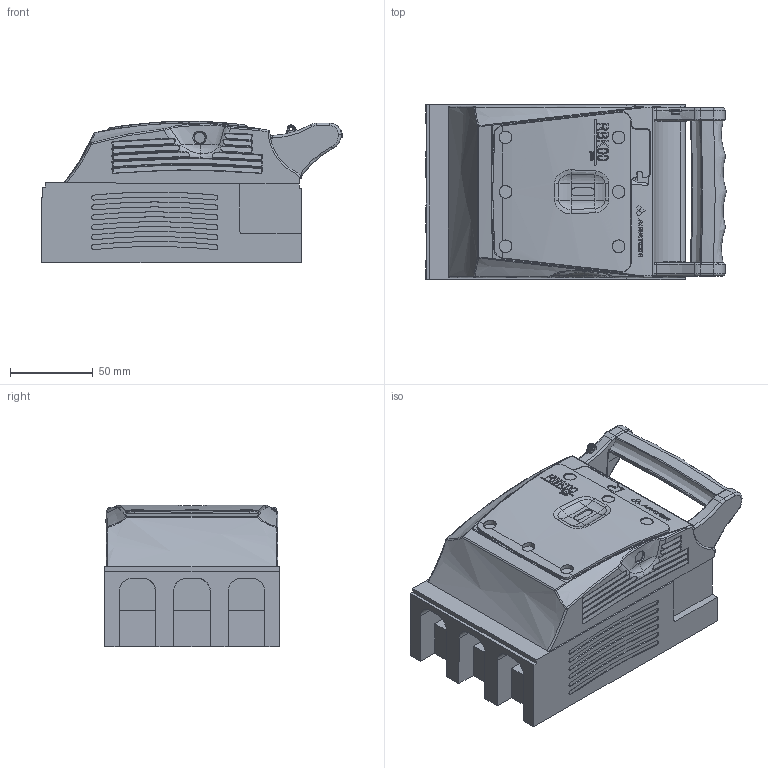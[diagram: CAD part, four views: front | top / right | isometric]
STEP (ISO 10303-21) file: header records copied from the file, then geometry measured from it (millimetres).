
FILE_DESCRIPTION(/* description */ (''),/* implementation_level */ '2;1');
FILE_NAME(/* name */ 'RBK 00 pro - 63-823256-111.stp',/* time_stamp */ '2019-02-21T08:36:30+01:00',/* author */ (''),/* organization */ (''),/* preprocessor_version */ 'ST-DEVELOPER v16',/* originating_system */ 'SIEMENS PLM Software NX 10.0',/* authorisation */ '');
FILE_SCHEMA (('AUTOMOTIVE_DESIGN { 1 0 10303 214 3 1 1 1 }'));
Products named in the file (1): 710_13BC62B99l06
Bounding box: 182.21 x 106 x 85.77 mm (x, y, z)
Volume: 1140510.8 mm3; surface area: 97961 mm2
Topology: 1 solids, 4 shells, 1416 faces, 3937 edges, 2575 vertices
Faces by surface type: plane 832, bspline 230, cylinder 129, cone 102, extrusion 62, torus 37, sphere 18, revolution 6
Full cylindrical faces by diameter (mm): 2.2 x1, 5.2 x4, 6.6 x1
Entity records: 68201 total; most frequent: CARTESIAN_POINT 29163, ORIENTED_EDGE 7774, DIRECTION 7151, EDGE_CURVE 3887, AXIS2_PLACEMENT_3D 2825, VERTEX_POINT 2564, EDGE_LOOP 1507, VECTOR 1495
